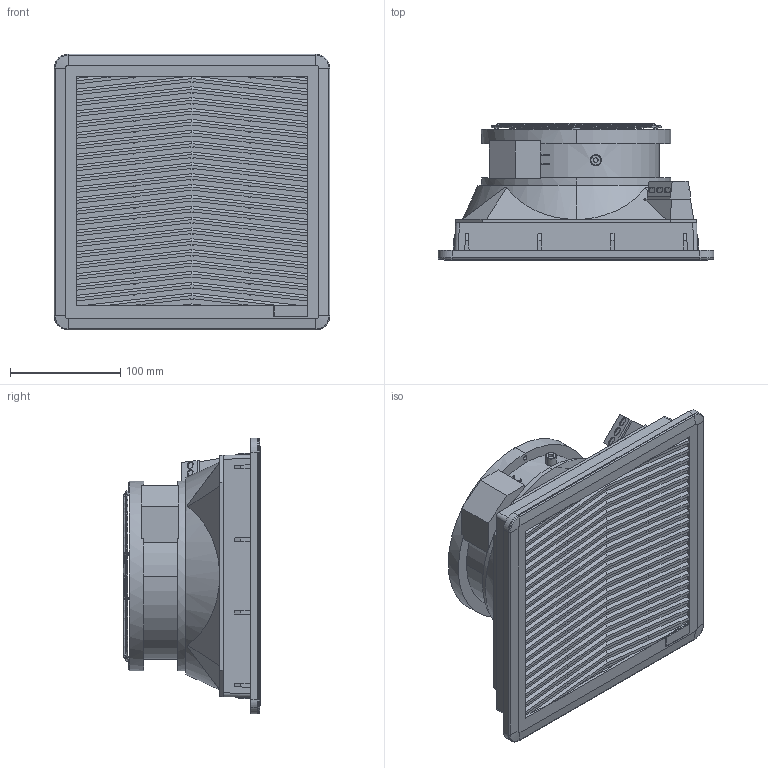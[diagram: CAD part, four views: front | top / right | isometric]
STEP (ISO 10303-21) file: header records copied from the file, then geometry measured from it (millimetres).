
FILE_DESCRIPTION (( 'STEP AP214' ), '1' );
FILE_NAME ('FF15AxxxyF.STEP', '2023-09-28T10:37:35', ( '' ), ( '' ), 'SwSTEP 2.0', 'SolidWorks 2022', '' );
FILE_SCHEMA (( 'AUTOMOTIVE_DESIGN' ));
Length unit declared in the file: millimetre
Products named in the file (8): 040013_LK_980-01-3_morsettiera semplificata; DT-02106DSI_P15FPF-nnnn semplificata; DT-02363DSI; DT-04082DSI_mostrina semplificata; DT-00159DSI_Base semplificata; FF15AxxxyF; DT-00158DSI_Sede etichetta semplificato; DT-02400DSI_C18C semplificato
Assembly tree (7 placements, depth 2):
  FF15AxxxyF
    DT-00158DSI_Sede etichetta semplificato
    DT-02106DSI_P15FPF-nnnn semplificata
    DT-02400DSI_C18C semplificato
    DT-02363DSI
    040013_LK_980-01-3_morsettiera semplificata
    DT-04082DSI_mostrina semplificata
    DT-00159DSI_Base semplificata
Bounding box: 250.12 x 124.35 x 250.08 mm (x, y, z)
Volume: 3785063.4 mm3; surface area: 526956.4 mm2
Topology: 6 solids, 7 shells, 888 faces, 2566 edges, 1688 vertices
Faces by surface type: plane 666, torus 80, bspline 76, cylinder 56, cone 10
Entity records: 33794 total; most frequent: CARTESIAN_POINT 11523, ORIENTED_EDGE 5132, DIRECTION 3407, EDGE_CURVE 2566, VERTEX_POINT 1688, LINE 1211, VECTOR 1211, AXIS2_PLACEMENT_3D 1098
